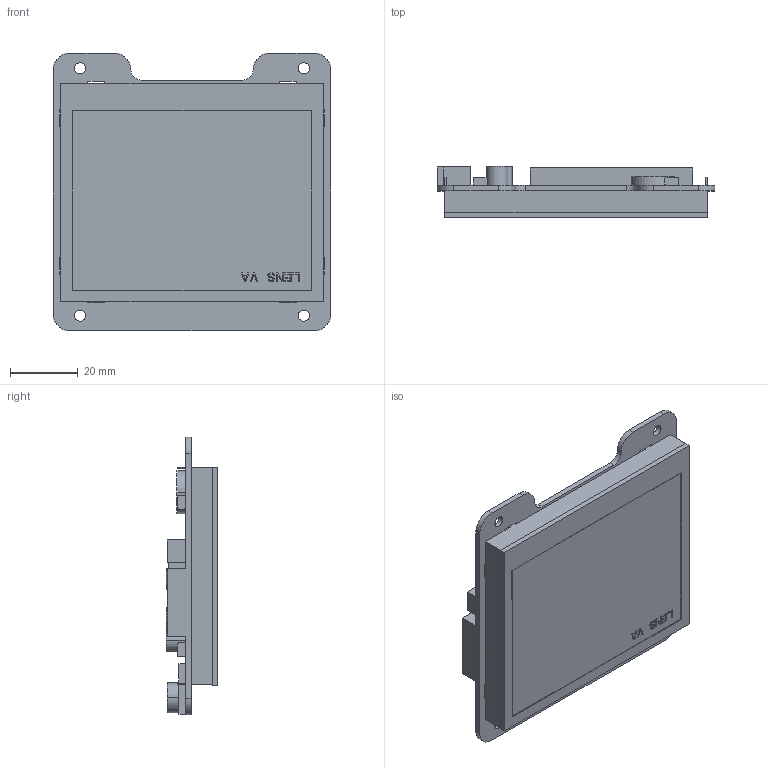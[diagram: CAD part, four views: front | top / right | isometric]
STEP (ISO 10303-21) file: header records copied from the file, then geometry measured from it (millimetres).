
FILE_DESCRIPTION((''),'2;1');
FILE_NAME('DMG64480K035-03WTC_ASM','2022-02-22T',('Administrator'),(''),'PRO/ENGINEER BY PARAMETRIC TECHNOLOGY CORPORATION, 2014320','PRO/ENGINEER BY PARAMETRIC TECHNOLOGY CORPORATION, 2014320','');
FILE_SCHEMA(('CONFIG_CONTROL_DESIGN','SHAPE_APPEARANCE_LAYERS_GROUPS'));
Length unit declared in the file: millimetre
Products named in the file (5): TK035---; LCM; PCB; TP; DMG64480K035-03WTC_ASM
Assembly tree (4 placements, depth 2):
  DMG64480K035-03WTC_ASM
    TK035---
    LCM
    PCB
    TP
Bounding box: 82 x 15.1 x 82 mm (x, y, z)
Volume: 43310.1 mm3; surface area: 42481.2 mm2
Topology: 4 solids, 4 shells, 331 faces, 906 edges, 604 vertices
Faces by surface type: plane 281, cylinder 50
Entity records: 12362 total; most frequent: CARTESIAN_POINT 1850, ORIENTED_EDGE 1812, DIRECTION 1686, EDGE_CURVE 906, VECTOR 806, LINE 806, VERTEX_POINT 604, PRESENTATION_STYLE_ASSIGNMENT 584
